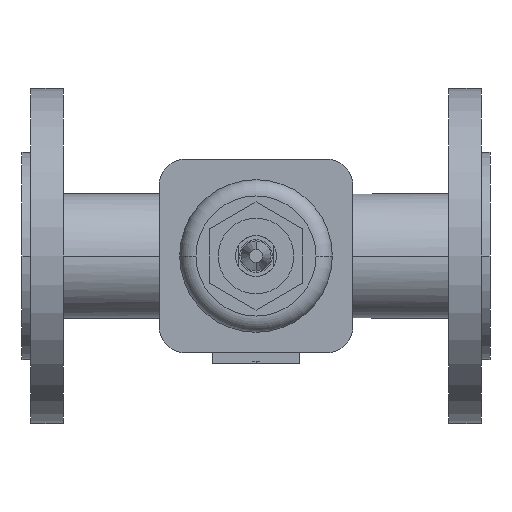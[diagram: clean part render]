
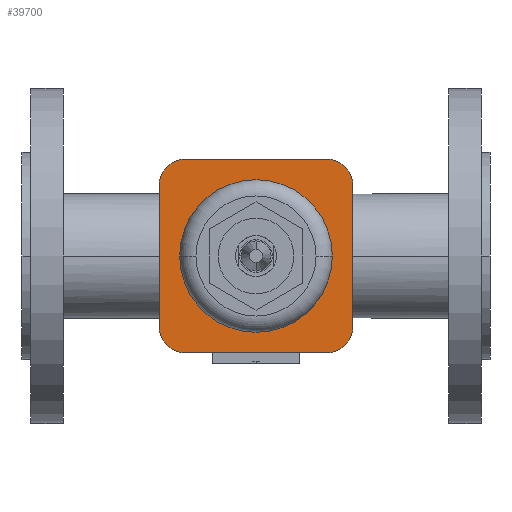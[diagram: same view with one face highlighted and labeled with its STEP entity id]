
A CAD part, front view. The second image highlights one B-rep face of the part: STEP entity #39700.
In plain terms, the highlighted planar face has unit normal (0, -1, 0).
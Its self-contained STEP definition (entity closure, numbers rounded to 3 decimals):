
#13700=CARTESIAN_POINT('',(77.5,-87.,0.));
#13710=VERTEX_POINT('',#13700);
#13760=CARTESIAN_POINT('',(115.,-87.,0.));
#13770=DIRECTION('',(0.,1.,0.));
#13780=DIRECTION('',(1.,0.,0.));
#13790=AXIS2_PLACEMENT_3D('',#13760,#13770,#13780);
#13800=CIRCLE('',#13790,37.5);
#13810=CARTESIAN_POINT('',(152.5,-87.,0.));
#13820=VERTEX_POINT('',#13810);
#13830=EDGE_CURVE('',#13710,#13820,#13800,.T.);
#31610=CARTESIAN_POINT('',(149.648,-87.,-47.648));
#31620=VERTEX_POINT('',#31610);
#31790=CARTESIAN_POINT('',(80.352,-87.,-47.648));
#31800=VERTEX_POINT('',#31790);
#31830=CARTESIAN_POINT('',(157.449,-87.,-47.648));
#31840=DIRECTION('',(1.,0.,0.));
#31850=VECTOR('',#31840,1.);
#31860=LINE('',#31830,#31850);
#31870=EDGE_CURVE('',#31800,#31620,#31860,.T.);
#37630=CARTESIAN_POINT('',(67.352,-87.,-34.648));
#37640=VERTEX_POINT('',#37630);
#37670=CARTESIAN_POINT('',(80.352,-87.,-34.648));
#37680=DIRECTION('',(0.,-1.,0.));
#37690=DIRECTION('',(0.,0.,-1.));
#37700=AXIS2_PLACEMENT_3D('',#37670,#37680,#37690);
#37710=CIRCLE('',#37700,13.);
#37720=EDGE_CURVE('',#37640,#31800,#37710,.T.);
#39070=CARTESIAN_POINT('',(165.25,-87.,0.));
#39080=DIRECTION('',(0.,-1.,0.));
#39090=DIRECTION('',(-1.,0.,0.));
#39100=AXIS2_PLACEMENT_3D('',#39070,#39080,#39090);
#39110=PLANE('',#39100);
#39120=CARTESIAN_POINT('',(80.352,-87.,34.648));
#39130=DIRECTION('',(0.,-1.,0.));
#39140=DIRECTION('',(-1.,0.,0.));
#39150=AXIS2_PLACEMENT_3D('',#39120,#39130,#39140);
#39160=CIRCLE('',#39150,13.);
#39170=CARTESIAN_POINT('',(80.352,-87.,47.648));
#39180=VERTEX_POINT('',#39170);
#39190=CARTESIAN_POINT('',(67.352,-87.,34.648));
#39200=VERTEX_POINT('',#39190);
#39210=EDGE_CURVE('',#39180,#39200,#39160,.T.);
#39220=ORIENTED_EDGE('',*,*,#39210,.T.);
#39230=CARTESIAN_POINT('',(122.801,-87.,47.648));
#39240=DIRECTION('',(-1.,0.,0.));
#39250=VECTOR('',#39240,1.);
#39260=LINE('',#39230,#39250);
#39270=CARTESIAN_POINT('',(149.648,-87.,47.648));
#39280=VERTEX_POINT('',#39270);
#39290=EDGE_CURVE('',#39280,#39180,#39260,.T.);
#39300=ORIENTED_EDGE('',*,*,#39290,.T.);
#39310=CARTESIAN_POINT('',(149.648,-87.,34.648));
#39320=DIRECTION('',(0.,-1.,0.));
#39330=DIRECTION('',(0.,0.,1.));
#39340=AXIS2_PLACEMENT_3D('',#39310,#39320,#39330);
#39350=CIRCLE('',#39340,13.);
#39360=CARTESIAN_POINT('',(162.648,-87.,34.648));
#39370=VERTEX_POINT('',#39360);
#39380=EDGE_CURVE('',#39370,#39280,#39350,.T.);
#39390=ORIENTED_EDGE('',*,*,#39380,.T.);
#39400=CARTESIAN_POINT('',(162.648,-87.,17.324));
#39410=DIRECTION('',(0.,0.,1.));
#39420=VECTOR('',#39410,1.);
#39430=LINE('',#39400,#39420);
#39440=CARTESIAN_POINT('',(162.648,-87.,-34.648));
#39450=VERTEX_POINT('',#39440);
#39460=EDGE_CURVE('',#39450,#39370,#39430,.T.);
#39470=ORIENTED_EDGE('',*,*,#39460,.T.);
#39480=CARTESIAN_POINT('',(149.648,-87.,-34.648));
#39490=DIRECTION('',(0.,-1.,0.));
#39500=DIRECTION('',(1.,0.,0.));
#39510=AXIS2_PLACEMENT_3D('',#39480,#39490,#39500);
#39520=CIRCLE('',#39510,13.);
#39530=EDGE_CURVE('',#31620,#39450,#39520,.T.);
#39540=ORIENTED_EDGE('',*,*,#39530,.T.);
#39550=ORIENTED_EDGE('',*,*,#31870,.T.);
#39560=ORIENTED_EDGE('',*,*,#37720,.T.);
#39570=CARTESIAN_POINT('',(67.352,-87.,-17.324));
#39580=DIRECTION('',(0.,0.,-1.));
#39590=VECTOR('',#39580,1.);
#39600=LINE('',#39570,#39590);
#39610=EDGE_CURVE('',#39200,#37640,#39600,.T.);
#39620=ORIENTED_EDGE('',*,*,#39610,.T.);
#39630=EDGE_LOOP('',(#39620,#39560,#39550,#39540,#39470,#39390,#39300,
#39220));
#39640=FACE_OUTER_BOUND('',#39630,.T.);
#39650=EDGE_CURVE('',#13820,#13710,#13800,.T.);
#39660=ORIENTED_EDGE('',*,*,#39650,.T.);
#39670=ORIENTED_EDGE('',*,*,#13830,.T.);
#39680=EDGE_LOOP('',(#39670,#39660));
#39690=FACE_BOUND('',#39680,.T.);
#39700=ADVANCED_FACE('',(#39640,#39690),#39110,.T.);
